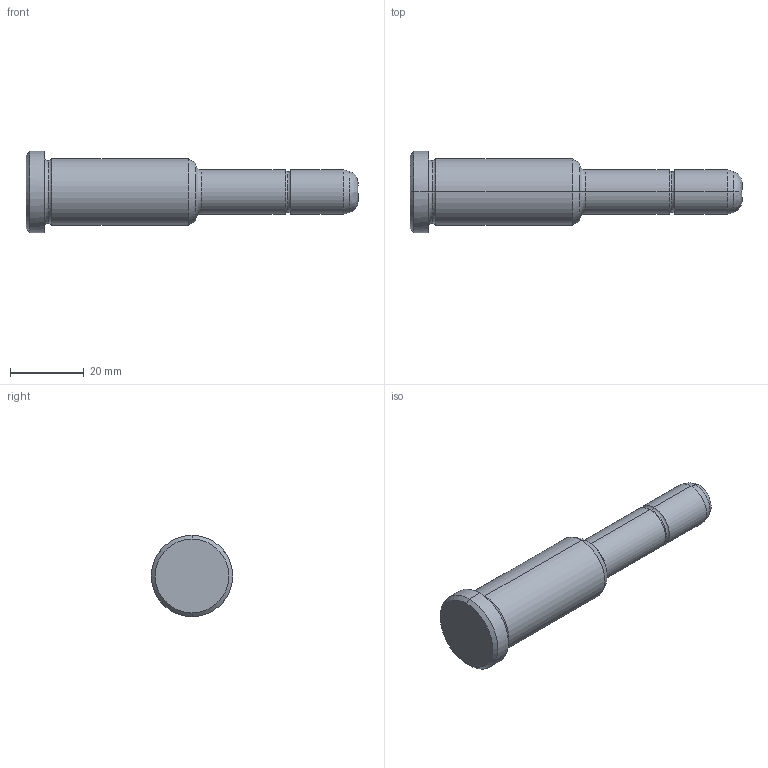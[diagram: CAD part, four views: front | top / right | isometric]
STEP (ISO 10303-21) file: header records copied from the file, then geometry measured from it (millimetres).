
FILE_DESCRIPTION(('CATIA V5 STEP Exchange'),'2;1');
FILE_NAME('C:\Users\Utente\Desktop\IO LAVORO\3D X SITO CF\X SITO\PLASTICA\351\351-12X46X90.stp','2021-08-17T13:19:23+00:00',('none'),('none'),'CATIA Version 5 Release 20 GA (IN-10)','CATIA V5 STEP AP203','none');
FILE_SCHEMA(('CONFIG_CONTROL_DESIGN'));
Length unit declared in the file: millimetre
Products named in the file (1): 351-12X46X90
Bounding box: 90 x 22 x 22 mm (x, y, z)
Volume: 17069 mm3; surface area: 4923 mm2
Topology: 1 solids, 1 shells, 30 faces, 86 edges, 60 vertices
Faces by surface type: torus 10, cylinder 8, cone 6, plane 4, bspline 2
Entity records: 1128 total; most frequent: CARTESIAN_POINT 343, ORIENTED_EDGE 172, DIRECTION 124, EDGE_CURVE 86, AXIS2_PLACEMENT_3D 83, VERTEX_POINT 60, CIRCLE 54, EDGE_LOOP 32
